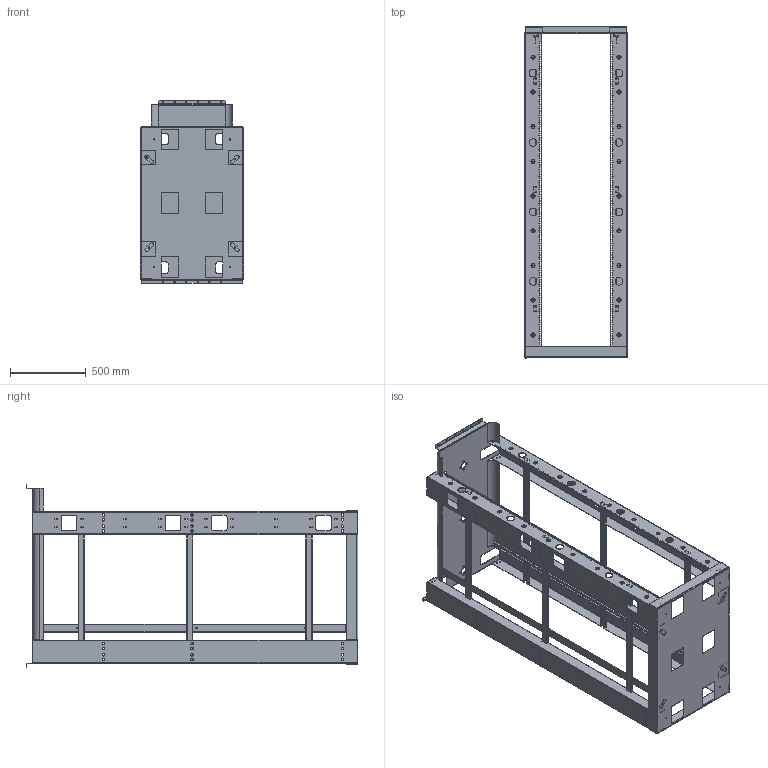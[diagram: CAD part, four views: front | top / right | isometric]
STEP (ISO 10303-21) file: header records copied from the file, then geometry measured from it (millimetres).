
FILE_DESCRIPTION((''),'2;1');
FILE_NAME('D:\a00506\Phantom.stp','2004-07-27T11:10:28',( 'Rick Hagglund'),('Hoffman Enclosures Inc.'),'I-DEAS Master Series 9', 'UNIX','Yes');
FILE_SCHEMA(('AUTOMOTIVE_DESIGN { 1 0 10303 214 0 1 1 1 }'));
Length unit declared in the file: inch
Products named in the file (10): 87782618; 87782616; 87782610; 87782608; 87782445; 87782614; 87782612; assy_unistrut; 87782359; 87782654
Assembly tree (17 placements, depth 3):
  87782618
    87782616  x2
    87782610
    87782608
    87782445  x4
    87782614
    87782612
    assy_unistrut  x3
      87782359
    87782654  x2
Bounding box: 679.48 x 2184.98 x 1200.25 mm (x, y, z)
Volume: 12721965.1 mm3; surface area: 10198234.7 mm2
Topology: 16 solids, 18 shells, 4785 faces, 13221 edges, 8616 vertices
Faces by surface type: bspline 4785
Entity records: 113702 total; most frequent: CARTESIAN_POINT 47471, ORIENTED_EDGE 20524, EDGE_CURVE 10250, VERTEX_POINT 6694, QUASI_UNIFORM_CURVE 6198, EDGE_LOOP 5266, FACE_OUTER_BOUND 3660, ADVANCED_FACE 3660
